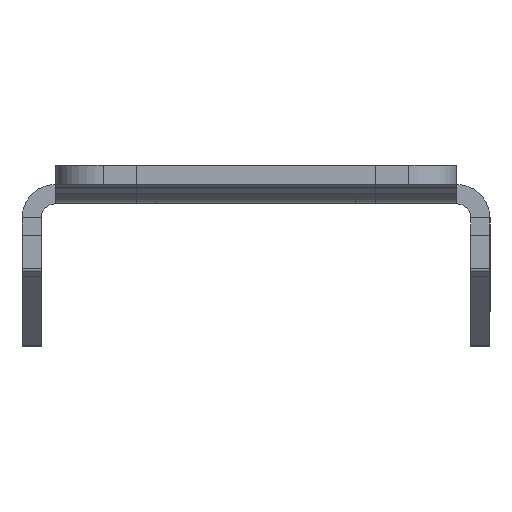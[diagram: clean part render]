
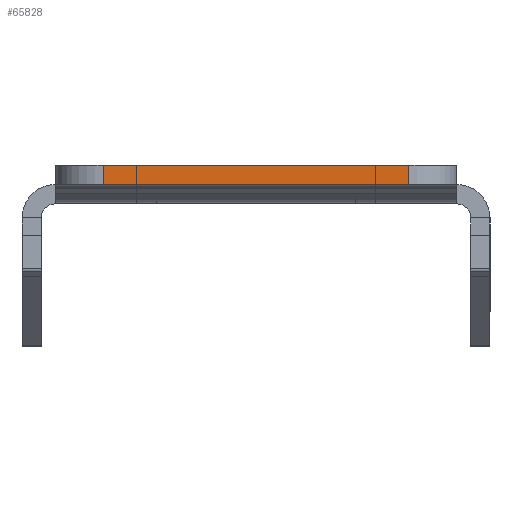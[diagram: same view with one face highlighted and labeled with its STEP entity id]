
A CAD part, left-side view. The second image highlights one B-rep face of the part: STEP entity #65828.
In plain terms, the highlighted planar face has unit normal (-1, 0, 0).
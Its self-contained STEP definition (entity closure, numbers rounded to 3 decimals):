
#3554 = VECTOR ( 'NONE', #30532, 1000. ) ;
#8362 = CARTESIAN_POINT ( 'NONE',  ( -776.002, -16., 9.531 ) ) ;
#9902 = VERTEX_POINT ( 'NONE', #59202 ) ;
#11945 = DIRECTION ( 'NONE',  ( 0., 0., 1. ) ) ;
#13217 = VECTOR ( 'NONE', #40184, 1000. ) ;
#15550 = CARTESIAN_POINT ( 'NONE',  ( -776.002, 0., 7.531 ) ) ;
#16026 = CARTESIAN_POINT ( 'NONE',  ( -776.002, 16., 9.531 ) ) ;
#17728 = EDGE_CURVE ( 'NONE', #35233, #62300, #84624, .T. ) ;
#18793 = CARTESIAN_POINT ( 'NONE',  ( -776.002, -16., 9.531 ) ) ;
#19213 = EDGE_CURVE ( 'NONE', #62300, #21548, #79101, .T. ) ;
#19345 = ORIENTED_EDGE ( 'NONE', *, *, #43769, .F. ) ;
#21520 = LINE ( 'NONE', #15550, #46159 ) ;
#21548 = VERTEX_POINT ( 'NONE', #24962 ) ;
#22442 = LINE ( 'NONE', #16026, #3554 ) ;
#24338 = AXIS2_PLACEMENT_3D ( 'NONE', #25180, #26007, #11945 ) ;
#24962 = CARTESIAN_POINT ( 'NONE',  ( -776.002, 16., 9.531 ) ) ;
#25180 = CARTESIAN_POINT ( 'NONE',  ( -776.002, 21., 9.531 ) ) ;
#26007 = DIRECTION ( 'NONE',  ( -1., 0., 0. ) ) ;
#30532 = DIRECTION ( 'NONE',  ( 0., 0., -1. ) ) ;
#31582 = FACE_OUTER_BOUND ( 'NONE', #43680, .T. ) ;
#32904 = CARTESIAN_POINT ( 'NONE',  ( -776.002, 21., 9.531 ) ) ;
#35233 = VERTEX_POINT ( 'NONE', #35534 ) ;
#35534 = CARTESIAN_POINT ( 'NONE',  ( -776.002, -16., 7.531 ) ) ;
#38693 = VECTOR ( 'NONE', #38872, 1000. ) ;
#38872 = DIRECTION ( 'NONE',  ( 0., 0., 1. ) ) ;
#40184 = DIRECTION ( 'NONE',  ( 0., 1., 0. ) ) ;
#43680 = EDGE_LOOP ( 'NONE', ( #19345, #81923, #57417, #78018 ) ) ;
#43769 = EDGE_CURVE ( 'NONE', #35233, #9902, #21520, .T. ) ;
#46159 = VECTOR ( 'NONE', #49272, 1000. ) ;
#49272 = DIRECTION ( 'NONE',  ( 0., 1., 0. ) ) ;
#57417 = ORIENTED_EDGE ( 'NONE', *, *, #19213, .T. ) ;
#59202 = CARTESIAN_POINT ( 'NONE',  ( -776.002, 16., 7.531 ) ) ;
#62300 = VERTEX_POINT ( 'NONE', #8362 ) ;
#65828 = ADVANCED_FACE ( 'NONE', ( #31582 ), #84181, .T. ) ;
#78018 = ORIENTED_EDGE ( 'NONE', *, *, #78680, .T. ) ;
#78680 = EDGE_CURVE ( 'NONE', #21548, #9902, #22442, .T. ) ;
#79101 = LINE ( 'NONE', #32904, #13217 ) ;
#81923 = ORIENTED_EDGE ( 'NONE', *, *, #17728, .T. ) ;
#84181 = PLANE ( 'NONE',  #24338 ) ;
#84624 = LINE ( 'NONE', #18793, #38693 ) ;
